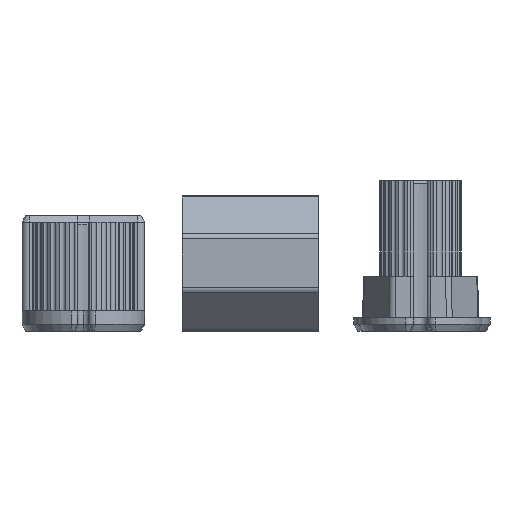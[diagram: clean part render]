
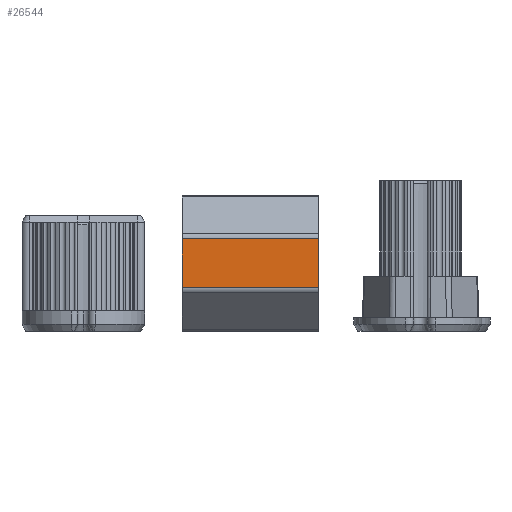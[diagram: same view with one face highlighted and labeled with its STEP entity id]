
A CAD part, front view. The second image highlights one B-rep face of the part: STEP entity #26544.
In plain terms, the highlighted planar face has unit normal (0, -1, 0).
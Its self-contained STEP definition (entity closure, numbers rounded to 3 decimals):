
#3156 = LINE ( 'NONE', #36718, #18379 ) ;
#3378 = DIRECTION ( 'NONE',  ( 0., 0., 1. ) ) ;
#3506 = EDGE_CURVE ( 'NONE', #39428, #30792, #32876, .T. ) ;
#3816 = EDGE_CURVE ( 'NONE', #39428, #40476, #3156, .T. ) ;
#3892 = VECTOR ( 'NONE', #32027, 1000. ) ;
#4289 = VECTOR ( 'NONE', #8610, 1000. ) ;
#4518 = EDGE_LOOP ( 'NONE', ( #20155, #31040, #26275, #15877 ) ) ;
#6302 = VECTOR ( 'NONE', #19074, 1000. ) ;
#8610 = DIRECTION ( 'NONE',  ( -1., 0., 0. ) ) ;
#10931 = CARTESIAN_POINT ( 'NONE',  ( 24.142, -28., 0. ) ) ;
#12157 = CARTESIAN_POINT ( 'NONE',  ( 24.142, -28., 13.586 ) ) ;
#12655 = CARTESIAN_POINT ( 'NONE',  ( 24.142, -28., 6.414 ) ) ;
#14247 = DIRECTION ( 'NONE',  ( 0., -1., 0. ) ) ;
#15877 = ORIENTED_EDGE ( 'NONE', *, *, #38010, .T. ) ;
#18379 = VECTOR ( 'NONE', #3378, 1000. ) ;
#19074 = DIRECTION ( 'NONE',  ( 1., 0., 0. ) ) ;
#20155 = ORIENTED_EDGE ( 'NONE', *, *, #3816, .F. ) ;
#20653 = AXIS2_PLACEMENT_3D ( 'NONE', #10931, #14247, #24186 ) ;
#22604 = EDGE_CURVE ( 'NONE', #38263, #30792, #31590, .T. ) ;
#24186 = DIRECTION ( 'NONE',  ( 0., 0., -1. ) ) ;
#24312 = CARTESIAN_POINT ( 'NONE',  ( -10., -28., 13.586 ) ) ;
#26275 = ORIENTED_EDGE ( 'NONE', *, *, #22604, .F. ) ;
#26329 = CARTESIAN_POINT ( 'NONE',  ( -10., -28., 6.414 ) ) ;
#26544 = ADVANCED_FACE ( 'NONE', ( #43653 ), #41327, .T. ) ;
#30792 = VERTEX_POINT ( 'NONE', #41941 ) ;
#31040 = ORIENTED_EDGE ( 'NONE', *, *, #3506, .T. ) ;
#31590 = LINE ( 'NONE', #42015, #3892 ) ;
#32027 = DIRECTION ( 'NONE',  ( 0., 0., -1. ) ) ;
#32876 = LINE ( 'NONE', #12655, #6302 ) ;
#36631 = LINE ( 'NONE', #12157, #4289 ) ;
#36718 = CARTESIAN_POINT ( 'NONE',  ( -10., -28., 0. ) ) ;
#38010 = EDGE_CURVE ( 'NONE', #38263, #40476, #36631, .T. ) ;
#38263 = VERTEX_POINT ( 'NONE', #39637 ) ;
#39428 = VERTEX_POINT ( 'NONE', #26329 ) ;
#39637 = CARTESIAN_POINT ( 'NONE',  ( 10., -28., 13.586 ) ) ;
#40476 = VERTEX_POINT ( 'NONE', #24312 ) ;
#41327 = PLANE ( 'NONE',  #20653 ) ;
#41941 = CARTESIAN_POINT ( 'NONE',  ( 10., -28., 6.414 ) ) ;
#42015 = CARTESIAN_POINT ( 'NONE',  ( 10., -28., 0. ) ) ;
#43653 = FACE_OUTER_BOUND ( 'NONE', #4518, .T. ) ;
